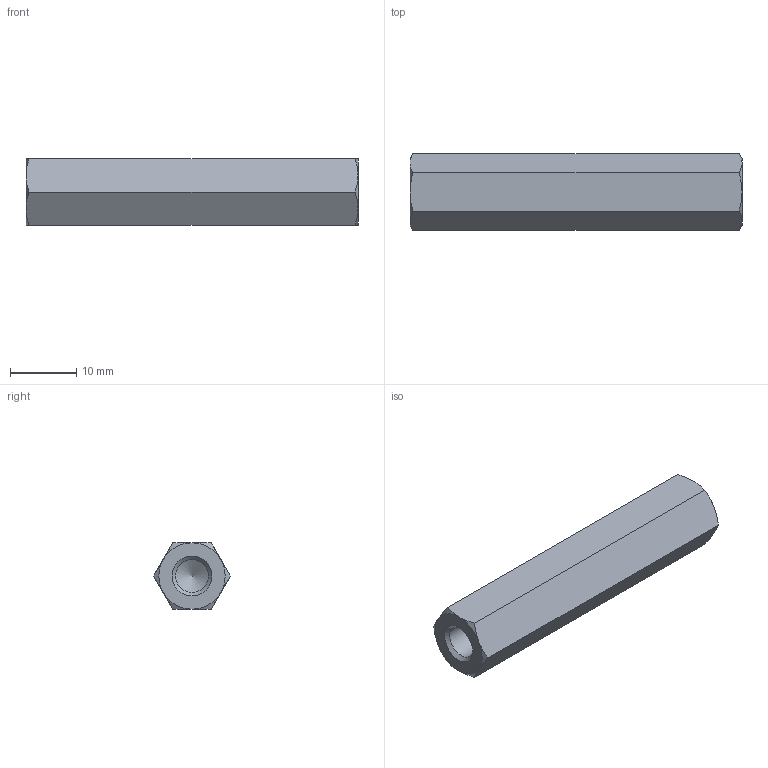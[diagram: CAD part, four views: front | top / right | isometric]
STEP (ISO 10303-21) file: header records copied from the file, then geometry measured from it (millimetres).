
FILE_DESCRIPTION( ( 'STEP AP203' ), '1' );
FILE_NAME( 'C:/Temp/Ganter_Step_05_03_2020/data/3_2/gn6220/gn6220_ni/Stainless Steel-Spacer GN 6220-NI-M6-50-A.stp', '2020-03-13T05:43:04', ( 'License CC BY-ND 4.0' ), ( 'CADENAS' ), ' ', 'PARTsolutions', ' ' );
FILE_SCHEMA( ( 'CONFIG_CONTROL_DESIGN' ) );
Length unit declared in the file: millimetre
Products named in the file (1): _Stainless Steel-Spacer GN 6220-NI-M6-50-A
Bounding box: 50 x 11.55 x 10 mm (x, y, z)
Volume: 3655 mm3; surface area: 2422.7 mm2
Topology: 1 solids, 1 shells, 26 faces, 57 edges, 33 vertices
Faces by surface type: cone 16, plane 8, cylinder 2
Full cylindrical faces by diameter (mm): 4.917 x2
Entity records: 766 total; most frequent: CARTESIAN_POINT 227, DIRECTION 96, ORIENTED_EDGE 96, EDGE_CURVE 48, AXIS2_PLACEMENT_3D 45, EDGE_LOOP 32, VERTEX_POINT 32, FACE_OUTER_BOUND 28
